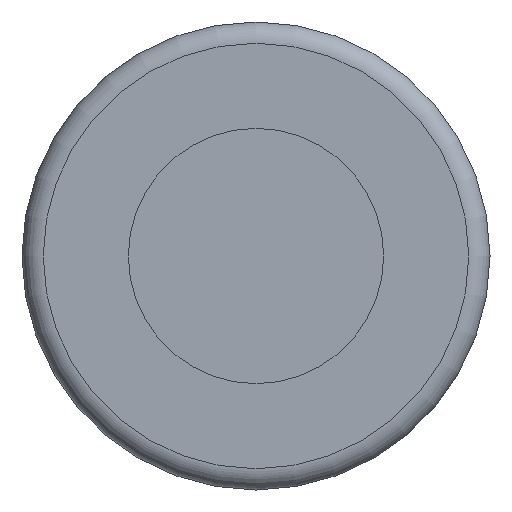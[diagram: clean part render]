
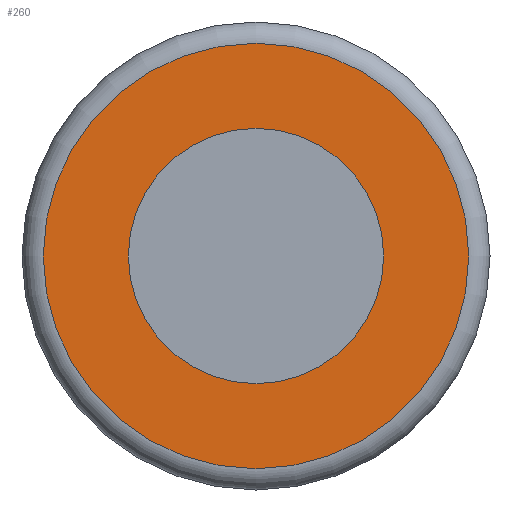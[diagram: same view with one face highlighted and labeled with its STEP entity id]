
A CAD part, left-side view. The second image highlights one B-rep face of the part: STEP entity #260.
In plain terms, the highlighted planar face has unit normal (-1, 0, 0).
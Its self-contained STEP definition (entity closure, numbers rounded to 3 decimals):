
#209=CARTESIAN_POINT('',(150.0,10.0,0.));
#210=VERTEX_POINT('',#209);
#211=CARTESIAN_POINT('',(150.0,0.0,0.0));
#212=DIRECTION('',(1.0,0.0,0.0));
#213=DIRECTION('',(0.0,-1.0,0.0));
#214=AXIS2_PLACEMENT_3D('',#211,#212,#213);
#215=CIRCLE('',#214,10.0);
#216=EDGE_CURVE('',#210,#210,#215,.T.);
#241=CARTESIAN_POINT('',(150.0,0.0,0.0));
#242=DIRECTION('',(-1.0,0.0,0.0));
#243=DIRECTION('',(0.0,0.0,1.0));
#244=AXIS2_PLACEMENT_3D('',#241,#242,#243);
#245=PLANE('',#244);
#246=ORIENTED_EDGE('',*,*,#216,.F.);
#247=EDGE_LOOP('',(#246));
#248=FACE_OUTER_BOUND('',#247,.T.);
#249=CARTESIAN_POINT('',(150.0,6.,0.));
#250=VERTEX_POINT('',#249);
#251=CARTESIAN_POINT('',(150.0,0.0,0.0));
#252=DIRECTION('',(1.0,0.0,0.0));
#253=DIRECTION('',(0.0,-1.0,0.0));
#254=AXIS2_PLACEMENT_3D('',#251,#252,#253);
#255=CIRCLE('',#254,6.);
#256=EDGE_CURVE('',#250,#250,#255,.T.);
#257=ORIENTED_EDGE('',*,*,#256,.T.);
#258=EDGE_LOOP('',(#257));
#259=FACE_BOUND('',#258,.T.);
#260=ADVANCED_FACE('',(#248,#259),#245,.T.);
